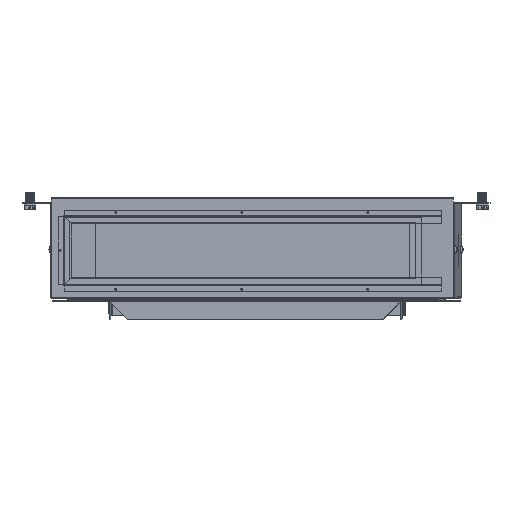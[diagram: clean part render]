
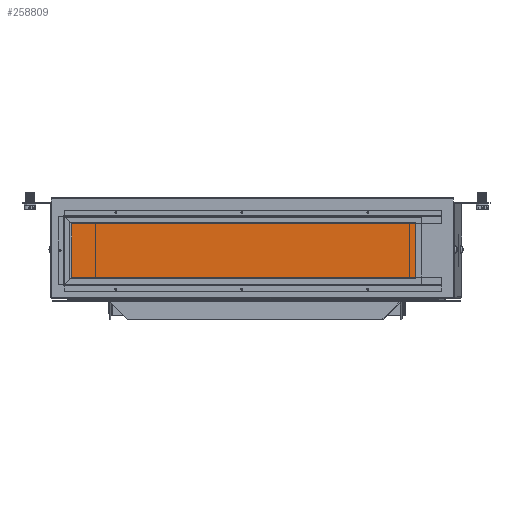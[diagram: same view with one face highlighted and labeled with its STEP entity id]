
A CAD part, front view. The second image highlights one B-rep face of the part: STEP entity #258809.
In plain terms, the highlighted planar face has unit normal (-0.01, -1, 0).
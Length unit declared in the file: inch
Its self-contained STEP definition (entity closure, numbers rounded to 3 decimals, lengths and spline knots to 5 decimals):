
#2241 = CARTESIAN_POINT ( 'NONE',  ( -9.72838, -29.61797, 10.13882 ) ) ;
#15779 = EDGE_CURVE ( 'NONE', #111001, #209875, #117028, .T. ) ;
#42947 = CARTESIAN_POINT ( 'NONE',  ( -9.72838, -29.61797, 4.76382 ) ) ;
#50462 = CARTESIAN_POINT ( 'NONE',  ( 6.77082, -29.78106, 7.45132 ) ) ;
#51074 = VECTOR ( 'NONE', #157278, 39.37008 ) ;
#60060 = VERTEX_POINT ( 'NONE', #110578 ) ;
#72802 = DIRECTION ( 'NONE',  ( -1., 0.01, 0. ) ) ;
#83070 = ORIENTED_EDGE ( 'NONE', *, *, #110358, .F. ) ;
#93146 = VERTEX_POINT ( 'NONE', #153129 ) ;
#94326 = DIRECTION ( 'NONE',  ( 0., 0., -1. ) ) ;
#98423 = EDGE_CURVE ( 'NONE', #93146, #60060, #109979, .T. ) ;
#107993 = LINE ( 'NONE', #239977, #160089 ) ;
#109979 = LINE ( 'NONE', #249242, #169026 ) ;
#110358 = EDGE_CURVE ( 'NONE', #209875, #93146, #107993, .T. ) ;
#110578 = CARTESIAN_POINT ( 'NONE',  ( 23.27001, -29.94414, 4.76382 ) ) ;
#111001 = VERTEX_POINT ( 'NONE', #42947 ) ;
#117028 = LINE ( 'NONE', #2241, #51074 ) ;
#125252 = DIRECTION ( 'NONE',  ( -1., 0.01, 0. ) ) ;
#129531 = DIRECTION ( 'NONE',  ( 1., -0.01, 0. ) ) ;
#142932 = LINE ( 'NONE', #280146, #201844 ) ;
#153129 = CARTESIAN_POINT ( 'NONE',  ( 23.27001, -29.94414, 10.13882 ) ) ;
#157278 = DIRECTION ( 'NONE',  ( 0., 0., 1. ) ) ;
#160089 = VECTOR ( 'NONE', #129531, 39.37008 ) ;
#169026 = VECTOR ( 'NONE', #94326, 39.37008 ) ;
#192645 = FACE_OUTER_BOUND ( 'NONE', #217906, .T. ) ;
#201844 = VECTOR ( 'NONE', #125252, 39.37008 ) ;
#205516 = DIRECTION ( 'NONE',  ( 0.01, 1., 0. ) ) ;
#209875 = VERTEX_POINT ( 'NONE', #264275 ) ;
#214213 = ORIENTED_EDGE ( 'NONE', *, *, #98423, .F. ) ;
#217906 = EDGE_LOOP ( 'NONE', ( #214213, #83070, #226179, #242921 ) ) ;
#219493 = AXIS2_PLACEMENT_3D ( 'NONE', #50462, #205516, #72802 ) ;
#226179 = ORIENTED_EDGE ( 'NONE', *, *, #15779, .F. ) ;
#226837 = PLANE ( 'NONE',  #219493 ) ;
#239977 = CARTESIAN_POINT ( 'NONE',  ( -9.72838, -29.61797, 10.13882 ) ) ;
#242921 = ORIENTED_EDGE ( 'NONE', *, *, #275889, .F. ) ;
#249242 = CARTESIAN_POINT ( 'NONE',  ( 23.27001, -29.94414, 10.13882 ) ) ;
#258809 = ADVANCED_FACE ( 'NONE', ( #192645 ), #226837, .F. ) ;
#264275 = CARTESIAN_POINT ( 'NONE',  ( -9.72838, -29.61797, 10.13882 ) ) ;
#275889 = EDGE_CURVE ( 'NONE', #60060, #111001, #142932, .T. ) ;
#280146 = CARTESIAN_POINT ( 'NONE',  ( -9.72838, -29.61797, 4.76382 ) ) ;
